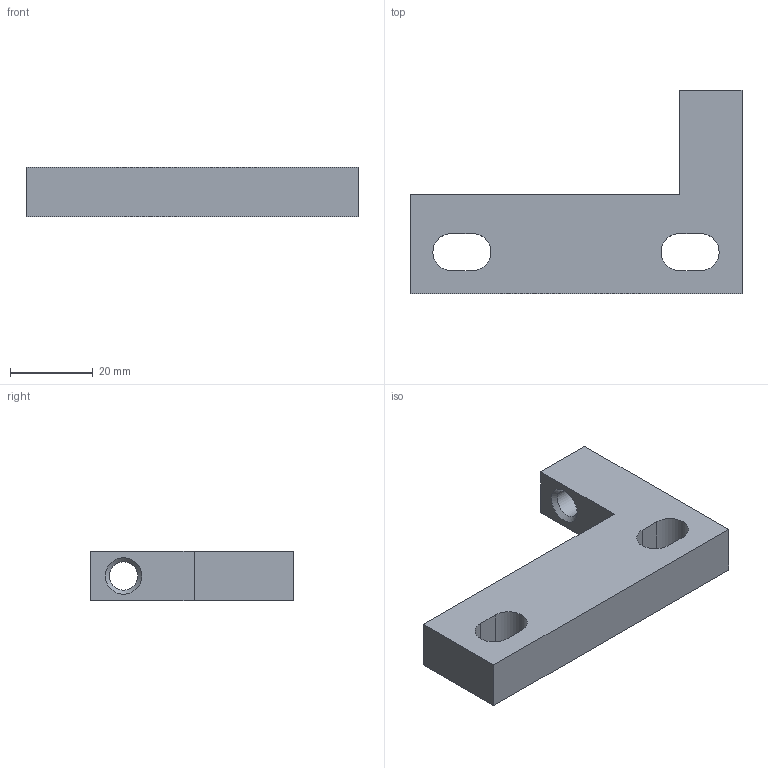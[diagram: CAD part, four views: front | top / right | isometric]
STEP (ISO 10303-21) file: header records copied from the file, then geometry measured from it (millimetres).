
FILE_DESCRIPTION(/* description */ (''),/* implementation_level */ '2;1');
FILE_NAME(/* name */ '039_staffa_fermo.stp',/* time_stamp */ '2020-01-08T15:13:56+01:00',/* author */ (''),/* organization */ (''),/* preprocessor_version */ 'ST-DEVELOPER v16.7',/* originating_system */ 'SIEMENS PLM Software NX 12.0',/* authorisation */ '');
FILE_SCHEMA (('AUTOMOTIVE_DESIGN { 1 0 10303 214 3 1 1 1 }'));
Length unit declared in the file: millimetre
Products named in the file (1): bez2C70411Cqd24
Bounding box: 80 x 49 x 12 mm (x, y, z)
Volume: 24376.7 mm3; surface area: 8406.7 mm2
Topology: 1 solids, 1 shells, 18 faces, 48 edges, 32 vertices
Faces by surface type: plane 12, cylinder 5, cone 1
Full cylindrical faces by diameter (mm): 6.8 x1
Entity records: 588 total; most frequent: CARTESIAN_POINT 95, DIRECTION 94, ORIENTED_EDGE 90, EDGE_CURVE 45, LINE 34, VECTOR 34, VERTEX_POINT 31, AXIS2_PLACEMENT_3D 30
